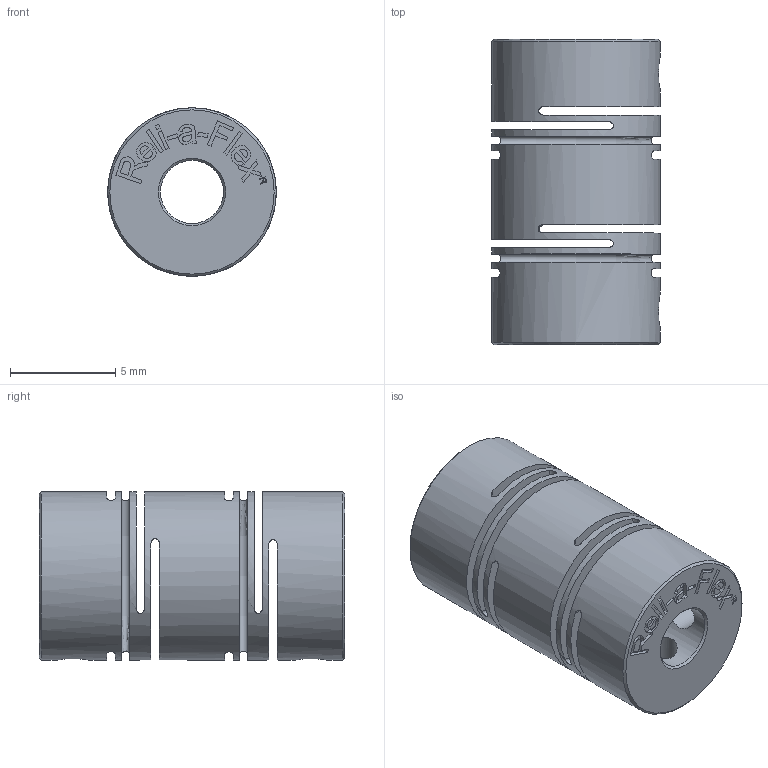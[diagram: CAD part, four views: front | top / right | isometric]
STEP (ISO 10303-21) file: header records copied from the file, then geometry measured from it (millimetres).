
FILE_DESCRIPTION( ( 'Unknown' ), '1' );
FILE_NAME( 'Z:/SolidWorks/STANDARD PARTS/FLEXIBLE SHAFT COUPLINGS, CLUTCHES AND COLLARS/Reliaflex/RCLA8-3-3.stp', 'Unknown', ( 'Unknown' ), ( 'Unknown' ), 'PSStep 13.0', 'Unknown', ' ' );
FILE_SCHEMA( ( 'AUTOMOTIVE_DESIGN { 1 0 10303 214 1 1 1 1 }' ) );
Length unit declared in the file: millimetre
Products named in the file (1): 1
Bounding box: 8 x 14.5 x 8 mm (x, y, z)
Volume: 487.7 mm3; surface area: 1093.1 mm2
Topology: 1 solids, 1 shells, 174 faces, 454 edges, 304 vertices
Faces by surface type: plane 120, cylinder 42, torus 8, cone 4
Full cylindrical faces by diameter (mm): 1.6 x4, 3 x2, 3.3 x9, 8 x1
Entity records: 6824 total; most frequent: CARTESIAN_POINT 1247, DIRECTION 846, ORIENTED_EDGE 816, EDGE_CURVE 408, AXIS2_PLACEMENT_3D 287, VERTEX_POINT 284, LINE 272, VECTOR 272
